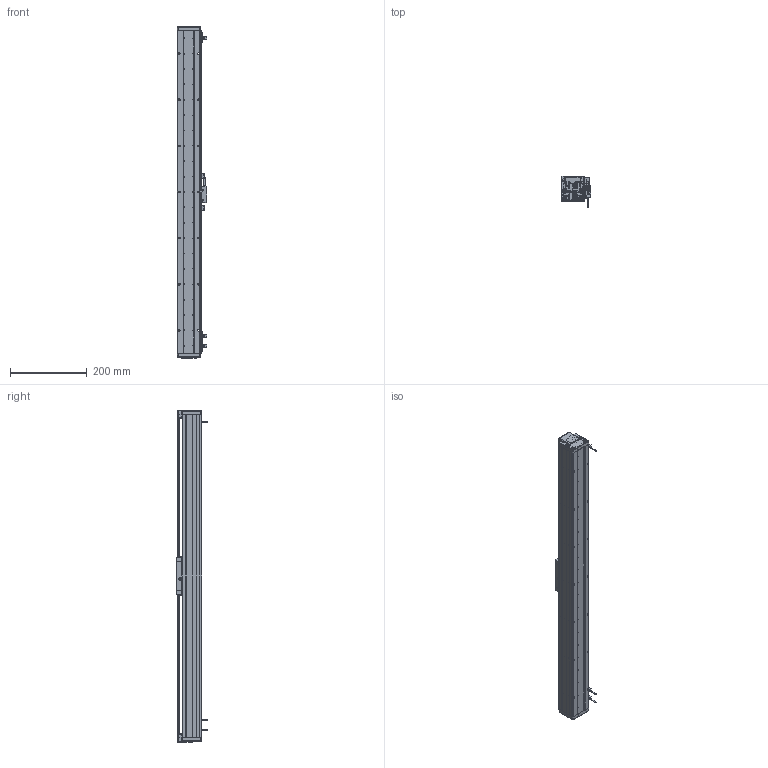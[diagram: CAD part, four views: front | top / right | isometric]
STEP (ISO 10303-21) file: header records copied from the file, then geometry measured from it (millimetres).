
FILE_DESCRIPTION (( 'STEP AP203' ), '1' );
FILE_NAME ('DA-A60-B1-T700-C010-0.2 眻盄萇儂.STEP', '2025-08-13T01:59:11', ( '' ), ( '' ), 'SwSTEP 2.0', 'SolidWorks 2019', '' );
FILE_SCHEMA (( 'CONFIG_CONTROL_DESIGN' ));
Length unit declared in the file: millimetre
Products named in the file (21): DA60-B1-HT-B-03 賑雄怢啣; 复件 纯铜油杯 6x6mm^AU60-V 滚珠滑台; 复件 DA60-DMT-DTJ-00 读数头支架^DA-A60-B1-T-C010-0.2-N 直线电机; AU60-V 幗紩賑怢; DA-A60-B1-T700-C010-0.2 眻盄萇儂; 葩璃 AKM01-W030-TRL^DA-A60-B1-T-C010-0.2-N 眻盄萇儂; 复件 DA60-B1-GT-00 滑块钢轨^DA60-YT-B1-HT-B-01 一体化滑动台板; 复件 BAKM01-W030-C1-TP-0.2 直线电机动子^DA-A60-B1-T-C010-0.2-N 直线电机; 葩璃 PM-T45^DA-A60-B1-T-C010-0.2-N 眻盄萇儂; 复件 DA60-DG-H-N-00 端盖^DA-A60-B1-T-C010-0.2-N 直线电机; 葩璃 DMT-010 1米m 0.2M^DA-A60-B1-T-C010-0.2-N 眻盄萇儂; DA60-YT-B1-HT-B-01 珨极趙賑雄怢啣; IU-AU60-L-00 菁釱(840); 复件 六角薄螺母 M3^DA-A60-B1-T-C010-0.2-N 直线电机(GB_FASTENER_NUT_STNAB M3-C); AU60-L 菁釱絳寢; 葩璃 DA60-HK-DP-01 結え^AU60-V 幗紩賑怢; 复件 DA60-XJ-00 橡胶挡块^DA-A60-B1-T-C010-0.2-N 直线电机; 复件 DA-A60-GYP-DMT-00 光电感应片^DA-A60-B1-T-C010-0.2-N 直线电机(默认); DA60-T-002-00  裔啣; 复件 DA60-GT-T-00 底座钢轨^AU60-L 底座导轨; 复件 XD-U-02  磁栅尺^DA-A60-B1-T-C010-0.2-N 直线电机
Assembly tree (33 placements, depth 4):
  DA-A60-B1-T700-C010-0.2 眻盄萇儂
    AU60-L 菁釱絳寢
      IU-AU60-L-00 菁釱(840)
      复件 DA60-GT-T-00 底座钢轨^AU60-L 底座导轨  x2
    AU60-V 幗紩賑怢
      DA60-YT-B1-HT-B-01 珨极趙賑雄怢啣
        DA60-B1-HT-B-03 賑雄怢啣
        复件 DA60-B1-GT-00 滑块钢轨^DA60-YT-B1-HT-B-01 一体化滑动台板  x2
      葩璃 DA60-HK-DP-01 結え^AU60-V 幗紩賑怢  x2
      复件 纯铜油杯 6x6mm^AU60-V 滚珠滑台
    复件 DA-A60-GYP-DMT-00 光电感应片^DA-A60-B1-T-C010-0.2-N 直线电机(默认)  x2
    复件 DA60-DMT-DTJ-00 读数头支架^DA-A60-B1-T-C010-0.2-N 直线电机
    葩璃 DMT-010 1米m 0.2M^DA-A60-B1-T-C010-0.2-N 眻盄萇儂
    复件 BAKM01-W030-C1-TP-0.2 直线电机动子^DA-A60-B1-T-C010-0.2-N 直线电机
    复件 DA60-XJ-00 橡胶挡块^DA-A60-B1-T-C010-0.2-N 直线电机  x2
    复件 DA60-DG-H-N-00 端盖^DA-A60-B1-T-C010-0.2-N 直线电机  x2
    DA60-T-002-00  裔啣
    葩璃 AKM01-W030-TRL^DA-A60-B1-T-C010-0.2-N 眻盄萇儂
    葩璃 PM-T45^DA-A60-B1-T-C010-0.2-N 眻盄萇儂  x3
    复件 XD-U-02  磁栅尺^DA-A60-B1-T-C010-0.2-N 直线电机
    复件 六角薄螺母 M3^DA-A60-B1-T-C010-0.2-N 直线电机(GB_FASTENER_NUT_STNAB M3-C)  x6
Bounding box: 76.95 x 80 x 864 mm (x, y, z)
Volume: 1776794.9 mm3; surface area: 638629.6 mm2
Topology: 35 solids, 37 shells, 2950 faces, 7604 edges, 4615 vertices
Faces by surface type: cylinder 1135, plane 981, bspline 577, cone 248, torus 8, sphere 1
Entity records: 74447 total; most frequent: CARTESIAN_POINT 23871, ORIENTED_EDGE 10464, DIRECTION 9535, EDGE_CURVE 5232, AXIS2_PLACEMENT_3D 3429, VERTEX_POINT 3286, LINE 2677, VECTOR 2677
